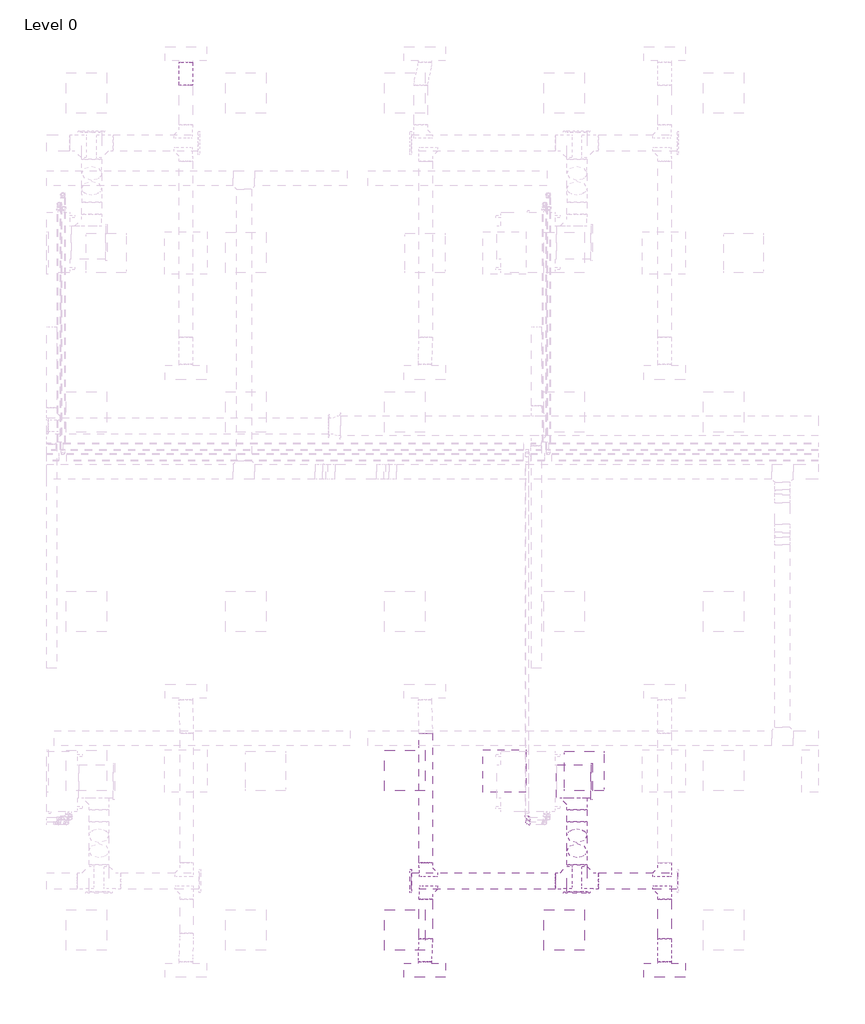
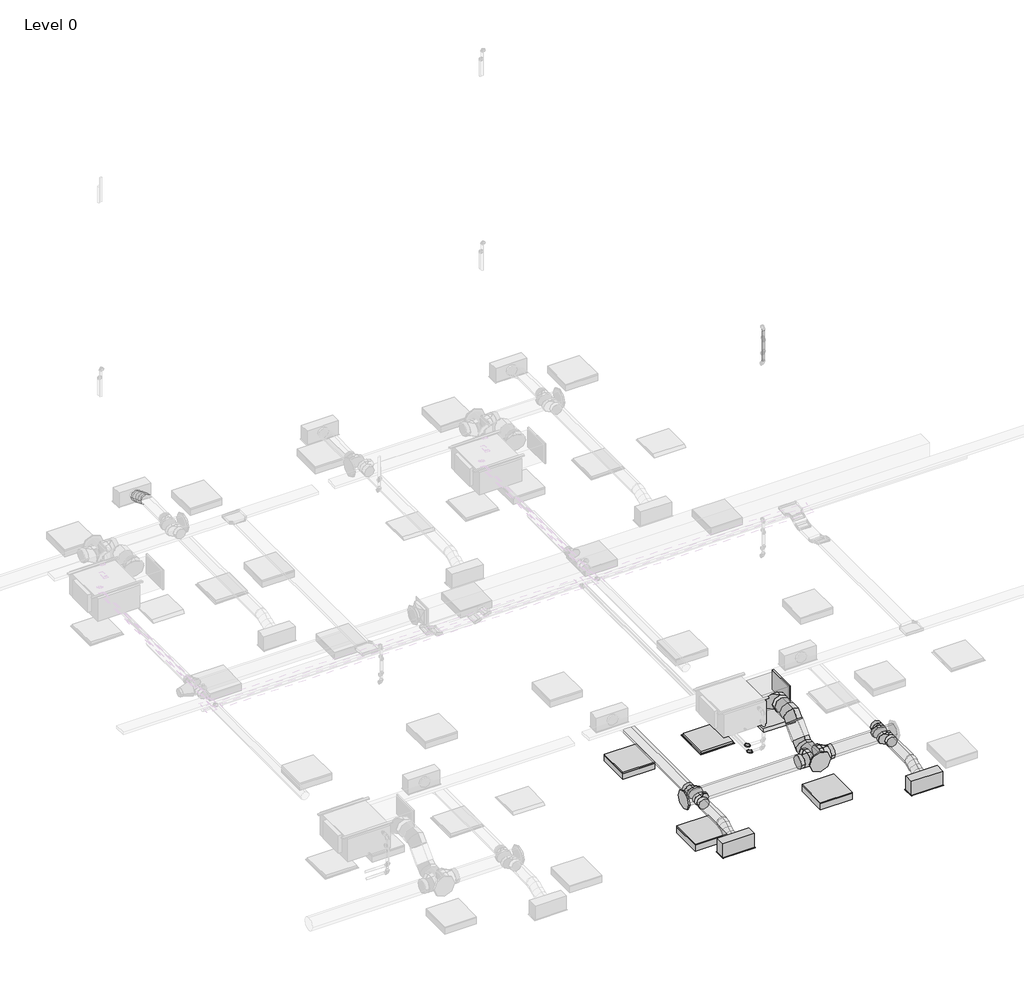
# One storey, part 8 of 34: 12 duct fittings, 12 duct segments, 4 light fixtures, 3 air terminals, 2 pipe fittings, 1 pipe segment.
"""IFC4 building model written with IfcOpenShell, lengths in millimetres."""

from ifc_helpers import new_model, si_unit, point, frame, frame_2d, origin, place, context, project, spatial, polyline, circle_curve, ellipse_curve, trimmed, segment, composite_curve, outline, extrude, transform, mapped, element, save
from ifc_brep_helpers import plane_surface, cylinder_surface, advanced_brep
from components import return_grille_rectangular_hosted_standard_7b12617c, supply_diffuser_with_plenum_linear_slot_hosted_2b730595, dw144_rectangular_blank_end_standard_8fde7d16, dw144_round_blank_end_standard_f82b0856, dw144_round_blank_end_standard_9aa061e7, dw144_round_segmented_bend_slip_joint_standard_8b80c5ae, dw144_round_shoe_branch_slip_joint1_standard_2_15a2edd8, dw144_round_shoe_branch_slip_joint1_standard_2_559552f4, dw144_round_shoe_branch_slip_joint1_standard_2_7ba9e4ed, dw144_round_shoe_branch_slip_joint1_standard_2_67b64720, light_fixture_b730b5ca, troffer_light_2x2_parabolic_2_x2_2_lamp_120v_6a063ff3, elbow_threaded_gmi_standard_b4aa7741

model = new_model("IFC4")

# Units and contexts
model_context = context("Model", 3, world=origin())
ifc_project = project(units=[si_unit("LENGTHUNIT", "METRE", prefix="MILLI")], contexts=[model_context])

# Site, building, storey
site = spatial("IfcSite", under=ifc_project)
building = spatial("IfcBuilding", under=site)
storey = spatial("IfcBuildingStorey", under=building, Name="Level 0", Elevation=0.0)

# Air terminals
placement = place(None, origin())
return_grille_rectangular_hosted_standard_shape = return_grille_rectangular_hosted_standard_7b12617c(model_context)
element("IfcAirTerminal", 1, ObjectType="Return Grille - Rectangular - Hosted : Standard", at=placement, inside=storey, context=model_context, shape_type="MappedRepresentation", body=[
    mapped(return_grille_rectangular_hosted_standard_shape, transform((17562.2000027, 3963.2000004, 2800.0), x_axis=(1.0, 0.0, 0.0), y_axis=(0.0, -1.0, 0.0), z_axis=(0.0, 0.0, -1.0))),
])
supply_diffuser_with_plenum_linear_slot_hosted_shape = supply_diffuser_with_plenum_linear_slot_hosted_2b730595(model_context)
element("IfcAirTerminal", 2, ObjectType="Supply Diffuser with Plenum - Linear Slot - Hosted : 24\" x 8\"-200 In Inlet  4-Slot", at=placement, inside=storey, context=model_context, shape_type="MappedRepresentation", body=[
    mapped(supply_diffuser_with_plenum_linear_slot_hosted_shape, transform((16362.2000027, 963.2000004, 2800.0), x_axis=(1.0, 0.0, 0.0), y_axis=(0.0, -1.0, 0.0), z_axis=(0.0, 0.0, -1.0))),
])
element("IfcAirTerminal", 3, ObjectType="Supply Diffuser with Plenum - Linear Slot - Hosted : 24\" x 8\"-200 In Inlet  4-Slot", at=placement, inside=storey, context=model_context, shape_type="MappedRepresentation", body=[
    mapped(supply_diffuser_with_plenum_linear_slot_hosted_shape, transform((19973.9000022, 963.2000004, 2800.0), x_axis=(1.0, 0.0, 0.0), y_axis=(0.0, -1.0, 0.0), z_axis=(0.0, 0.0, -1.0))),
])

# Duct fittings
dw144_rectangular_blank_end_standard_shape = dw144_rectangular_blank_end_standard_8fde7d16(model_context)
element("IfcDuctFitting", 4, ObjectType="DW144 Rectangular Blank End : Standard", at=placement, inside=storey, context=model_context, shape_type="MappedRepresentation", body=[
    mapped(dw144_rectangular_blank_end_standard_shape, transform((18866.2561025, 3806.0000004, 3476.3911538), x_axis=(1.0, 0.0, 0.0), y_axis=(0.0, 1.0, 0.0), z_axis=(0.0, 0.0, 1.0))),
])
dw144_round_blank_end_standard_shape = dw144_round_blank_end_standard_f82b0856(model_context)
element("IfcDuctFitting", 5, ObjectType="DW144 Round Blank End : Standard", at=placement, inside=storey, context=model_context, shape_type="MappedRepresentation", body=[
    mapped(dw144_round_blank_end_standard_shape, transform((18651.4561025, 2142.9916128, 3072.2088531), x_axis=(0.0, -1.0, 0.0), y_axis=(1.0, 0.0, 0.0), z_axis=(0.0, 0.0, 1.0))),
])
dw144_round_blank_end_standard_2_shape = dw144_round_blank_end_standard_9aa061e7(model_context)
element("IfcDuctFitting", 6, ObjectType="DW144 Round Blank End : Standard", at=placement, inside=storey, context=model_context, shape_type="MappedRepresentation", body=[
    mapped(dw144_round_blank_end_standard_2_shape, transform((16161.4561025, 2306.5018192, 3072.2088531), x_axis=(-1.0, 0.0, 0.0), y_axis=(0.0, -1.0, 0.0), z_axis=(0.0, 0.0, 1.0))),
])
dw144_round_segmented_bend_slip_joint_standard_shape = dw144_round_segmented_bend_slip_joint_standard_8b80c5ae(model_context)
element("IfcDuctFitting", 7, ObjectType="DW144 Round Segmented Bend - Slip Joint : Standard", at=placement, inside=storey, context=model_context, shape_type="MappedRepresentation", body=[
    mapped(dw144_round_segmented_bend_slip_joint_standard_shape, transform((18651.4561025, 2678.6338536, 3072.2088531), x_axis=(0.0, -0.7071067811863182, -0.7071067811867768), y_axis=(0.0, 0.7071067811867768, -0.7071067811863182), z_axis=(1.0, 0.0, 0.0))),
])
element("IfcDuctFitting", 8, ObjectType="DW144 Round Segmented Bend - Slip Joint : Standard", at=placement, inside=storey, context=model_context, shape_type="MappedRepresentation", body=[
    mapped(dw144_round_segmented_bend_slip_joint_standard_shape, transform((18651.4561025, 3076.0000004, 3469.575), x_axis=(0.0, -1.0, 0.0), y_axis=(0.0, 0.0, 1.0), z_axis=(-1.0, 0.0, 0.0))),
])
dw144_round_shoe_branch_slip_joint1_standard_2_shape = dw144_round_shoe_branch_slip_joint1_standard_2_15a2edd8(model_context)
element("IfcDuctFitting", 9, ObjectType="DW144 Round Shoe Branch - Slip Joint1 : Standard 2", at=placement, inside=storey, context=model_context, shape_type="MappedRepresentation", body=[
    mapped(dw144_round_shoe_branch_slip_joint1_standard_2_shape, transform((16373.9000022, 2181.5018192, 3072.2088531), x_axis=(0.0, -1.0, 0.0), y_axis=(-1.0, 0.0, 0.0), z_axis=(0.0, 0.0, -1.0))),
])
element("IfcDuctFitting", 10, ObjectType="DW144 Round Shoe Branch - Slip Joint1 : Standard 2", at=placement, inside=storey, context=model_context, shape_type="MappedRepresentation", body=[
    mapped(dw144_round_shoe_branch_slip_joint1_standard_2_shape, transform((16373.9000022, 2431.5018192, 3072.2088531), x_axis=(0.0, 1.0, 0.0), y_axis=(-1.0, 0.0, 0.0), z_axis=(0.0, 0.0, 1.0))),
])
dw144_round_shoe_branch_slip_joint1_standard_2_2_shape = dw144_round_shoe_branch_slip_joint1_standard_2_559552f4(model_context)
element("IfcDuctFitting", 11, ObjectType="DW144 Round Shoe Branch - Slip Joint1 : Standard 2", at=placement, inside=storey, context=model_context, shape_type="MappedRepresentation", body=[
    mapped(dw144_round_shoe_branch_slip_joint1_standard_2_2_shape, transform((19973.9000022, 2181.5018192, 3072.2088531), x_axis=(0.0, -1.0, 0.0), y_axis=(-1.0, 0.0, 0.0), z_axis=(0.0, 0.0, -1.0))),
])
element("IfcDuctFitting", 12, ObjectType="DW144 Round Shoe Branch - Slip Joint1 : Standard 2", at=placement, inside=storey, context=model_context, shape_type="MappedRepresentation", body=[
    mapped(dw144_round_shoe_branch_slip_joint1_standard_2_2_shape, transform((19973.9000022, 2431.5018192, 3072.2088531), x_axis=(0.0, 1.0, 0.0), y_axis=(-1.0, 0.0, 0.0), z_axis=(0.0, 0.0, 1.0))),
])
dw144_round_shoe_branch_slip_joint1_standard_2_3_shape = dw144_round_shoe_branch_slip_joint1_standard_2_7ba9e4ed(model_context)
element("IfcDuctFitting", 13, ObjectType="DW144 Round Shoe Branch - Slip Joint1 : Standard 2", at=placement, inside=storey, context=model_context, shape_type="MappedRepresentation", body=[
    mapped(dw144_round_shoe_branch_slip_joint1_standard_2_3_shape, transform((18651.4561025, 3556.0000004, 3469.575), x_axis=(0.0, -1.0, 0.0), y_axis=(-1.0, 0.0, 0.0), z_axis=(0.0, 0.0, -1.0))),
])
dw144_round_shoe_branch_slip_joint1_standard_2_4_shape = dw144_round_shoe_branch_slip_joint1_standard_2_67b64720(model_context)
element("IfcDuctFitting", 14, ObjectType="DW144 Round Shoe Branch - Slip Joint1 : Standard 2", at=placement, inside=storey, context=model_context, shape_type="MappedRepresentation", body=[
    mapped(dw144_round_shoe_branch_slip_joint1_standard_2_4_shape, transform((18801.4561025, 2306.5018192, 3072.2088531), x_axis=(1.0, 0.0, 0.0), y_axis=(0.0, -1.0, 0.0), z_axis=(0.0, 0.0, -1.0))),
])
element("IfcDuctFitting", 15, ObjectType="DW144 Round Shoe Branch - Slip Joint1 : Standard 2", at=placement, inside=storey, context=model_context, shape_type="MappedRepresentation", body=[
    mapped(dw144_round_shoe_branch_slip_joint1_standard_2_4_shape, transform((18501.4561025, 2306.5018192, 3072.2088531), x_axis=(-1.0, 0.0, 0.0), y_axis=(0.0, -1.0, 0.0), z_axis=(0.0, 0.0, 1.0))),
])

# Duct segments
element("IfcDuctSegment", 16, ObjectType="DW144 Flanged Med Radius Bend / Shoe Branch", at=placement, inside=storey, context=model_context, shape_type="SweptSolid", body=[
    extrude(outline(polyline([(18346.6561025, 3556.0000004), (18346.6561025, 4056.0000004), (18866.2561025, 4056.0000004), (18866.2561025, 3556.0000004), (18346.6561025, 3556.0000004)])), frame((0.0, 0.0, 3301.3911538), z_axis=(0.0, 0.0, 1.0), x_axis=(1.0, 0.0, 0.0)), (0.0, 0.0, 1.0), 350.0),
])
element("IfcDuctSegment", 17, ObjectType="DW144 Segmented Bend / Shoe Branch", at=placement, inside=storey, context=model_context, shape_type="SweptSolid", body=[
    extrude(outline(composite_curve([segment(trimmed(circle_curve(frame_2d((3469.575, 18651.4561025)), 150.0), [point((3469.575, 18501.4561025))], [point((3319.575, 18651.4561025))], False, "CARTESIAN"), True, "CONTINUOUS"), segment(trimmed(circle_curve(frame_2d((3469.575, 18651.4561025)), 150.0), [point((3319.575, 18651.4561025))], [point((3469.575, 18801.4561025))], False, "CARTESIAN"), True, "CONTINUOUS"), segment(trimmed(circle_curve(frame_2d((3469.575, 18651.4561025)), 150.0), [point((3469.575, 18801.4561025))], [point((3619.575, 18651.4561025))], False, "CARTESIAN"), True, "CONTINUOUS"), segment(trimmed(circle_curve(frame_2d((3469.575, 18651.4561025)), 150.0), [point((3619.575, 18651.4561025))], [point((3469.575, 18501.4561025))], False, "CARTESIAN"), True, "CONTINUOUS")], self_intersect=False)), frame((0.0, 3200.2640691, 0.0), z_axis=(0.0, 1.0, 0.0), x_axis=(0.0, 0.0, 1.0)), (0.0, 0.0, 1.0), 180.7359313),
])
element("IfcDuctSegment", 18, ObjectType="DW144 Segmented Bend / Shoe Branch", at=placement, inside=storey, context=model_context, shape_type="SweptSolid", body=[
    extrude(outline(composite_curve([segment(trimmed(circle_curve(frame_2d((3072.2088531, 18651.4561025)), 150.0), [point((3072.2088531, 18501.4561025))], [point((2922.2088531, 18651.4561025))], False, "CARTESIAN"), True, "CONTINUOUS"), segment(trimmed(circle_curve(frame_2d((3072.2088531, 18651.4561025)), 150.0), [point((2922.2088531, 18651.4561025))], [point((3072.2088531, 18801.4561025))], False, "CARTESIAN"), True, "CONTINUOUS"), segment(trimmed(circle_curve(frame_2d((3072.2088531, 18651.4561025)), 150.0), [point((3072.2088531, 18801.4561025))], [point((3222.2088531, 18651.4561025))], False, "CARTESIAN"), True, "CONTINUOUS"), segment(trimmed(circle_curve(frame_2d((3072.2088531, 18651.4561025)), 150.0), [point((3222.2088531, 18651.4561025))], [point((3072.2088531, 18501.4561025))], False, "CARTESIAN"), True, "CONTINUOUS")], self_intersect=False)), frame((0.0, 2142.9916128, 0.0), z_axis=(0.0, 1.0, 0.0), x_axis=(0.0, 0.0, 1.0)), (0.0, 0.0, 1.0), 411.3781721),
])
element("IfcDuctSegment", 19, ObjectType="DW144 Segmented Bend / Shoe Branch", at=placement, inside=storey, context=model_context, shape_type="SweptSolid", body=[
    extrude(outline(composite_curve([segment(trimmed(circle_curve(frame_2d((0.0, -150.0)), 150.0), [point((-150.0, -150.0))], [point((0.0, 0.0))], False, "CARTESIAN"), True, "CONTINUOUS"), segment(trimmed(circle_curve(frame_2d((0.0, -150.0)), 150.0), [point((0.0, 0.0))], [point((150.0, -150.0))], False, "CARTESIAN"), True, "CONTINUOUS"), segment(trimmed(circle_curve(frame_2d((0.0, -150.0)), 150.0), [point((150.0, -150.0))], [point((0.0, -300.0))], False, "CARTESIAN"), True, "CONTINUOUS"), segment(trimmed(circle_curve(frame_2d((0.0, -150.0)), 150.0), [point((0.0, -300.0))], [point((-150.0, -150.0))], False, "CARTESIAN"), True, "CONTINUOUS")], self_intersect=False)), frame((18651.4561025, 2872.5678364, 3054.0108016), z_axis=(0.0, 0.7071067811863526, 0.7071067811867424), x_axis=(1.0, 0.0, 0.0)), (0.0, 0.0, 1.0), 313.4324567),
])
element("IfcDuctSegment", 20, ObjectType="DW144 Segmented Bend / Shoe Branch", at=placement, inside=storey, context=model_context, shape_type="SweptSolid", body=[
    extrude(outline(composite_curve([segment(trimmed(circle_curve(frame_2d((2306.5018192, 3072.2088531)), 125.0), [point((2181.5018192, 3072.2088531))], [point((2306.5018192, 3197.2088531))], False, "CARTESIAN"), True, "CONTINUOUS"), segment(trimmed(circle_curve(frame_2d((2306.5018192, 3072.2088531)), 125.0), [point((2306.5018192, 3197.2088531))], [point((2431.5018192, 3072.2088531))], False, "CARTESIAN"), True, "CONTINUOUS"), segment(trimmed(circle_curve(frame_2d((2306.5018192, 3072.2088531)), 125.0), [point((2431.5018192, 3072.2088531))], [point((2306.5018192, 2947.2088531))], False, "CARTESIAN"), True, "CONTINUOUS"), segment(trimmed(circle_curve(frame_2d((2306.5018192, 3072.2088531)), 125.0), [point((2306.5018192, 2947.2088531))], [point((2181.5018192, 3072.2088531))], False, "CARTESIAN"), True, "CONTINUOUS")], self_intersect=False)), frame((18976.4561025, 0.0, 0.0), z_axis=(1.0, 0.0, 0.0), x_axis=(0.0, 1.0, 0.0)), (0.0, 0.0, 1.0), 1185.0),
])
element("IfcDuctSegment", 21, ObjectType="DW144 Segmented Bend / Shoe Branch", at=placement, inside=storey, context=model_context, shape_type="SweptSolid", body=[
    extrude(outline(composite_curve([segment(trimmed(circle_curve(frame_2d((2306.5018192, 3072.2088531)), 125.0), [point((2431.5018192, 3072.2088531))], [point((2306.5018192, 2947.2088531))], False, "CARTESIAN"), True, "CONTINUOUS"), segment(trimmed(circle_curve(frame_2d((2306.5018192, 3072.2088531)), 125.0), [point((2306.5018192, 2947.2088531))], [point((2181.5018192, 3072.2088531))], False, "CARTESIAN"), True, "CONTINUOUS"), segment(trimmed(circle_curve(frame_2d((2306.5018192, 3072.2088531)), 125.0), [point((2181.5018192, 3072.2088531))], [point((2306.5018192, 3197.2088531))], False, "CARTESIAN"), True, "CONTINUOUS"), segment(trimmed(circle_curve(frame_2d((2306.5018192, 3072.2088531)), 125.0), [point((2306.5018192, 3197.2088531))], [point((2431.5018192, 3072.2088531))], False, "CARTESIAN"), True, "CONTINUOUS")], self_intersect=False)), frame((16161.4561025, 0.0, 0.0), z_axis=(1.0, 0.0, 0.0), x_axis=(0.0, 1.0, 0.0)), (0.0, 0.0, 1.0), 2165.0),
])
element("IfcDuctSegment", 22, ObjectType="DW144 Segmented Bend / Shoe Branch", at=placement, inside=storey, context=model_context, shape_type="SweptSolid", body=[
    extrude(outline(composite_curve([segment(trimmed(circle_curve(frame_2d((3072.2088531, 19973.9000022)), 100.0), [point((3072.2088531, 19873.9000022))], [point((2972.2088531, 19973.9000022))], False, "CARTESIAN"), True, "CONTINUOUS"), segment(trimmed(circle_curve(frame_2d((3072.2088531, 19973.9000022)), 100.0), [point((2972.2088531, 19973.9000022))], [point((3072.2088531, 20073.9000022))], False, "CARTESIAN"), True, "CONTINUOUS"), segment(trimmed(circle_curve(frame_2d((3072.2088531, 19973.9000022)), 100.0), [point((3072.2088531, 20073.9000022))], [point((3172.2088531, 19973.9000022))], False, "CARTESIAN"), True, "CONTINUOUS"), segment(trimmed(circle_curve(frame_2d((3072.2088531, 19973.9000022)), 100.0), [point((3172.2088531, 19973.9000022))], [point((3072.2088531, 19873.9000022))], False, "CARTESIAN"), True, "CONTINUOUS")], self_intersect=False)), frame((0.0, 1441.5018192, 0.0), z_axis=(0.0, 1.0, 0.0), x_axis=(0.0, 0.0, 1.0)), (0.0, 0.0, 1.0), 590.0),
])
element("IfcDuctSegment", 23, ObjectType="DW144 Segmented Bend / Shoe Branch", at=placement, inside=storey, context=model_context, shape_type="SweptSolid", body=[
    extrude(outline(composite_curve([segment(trimmed(circle_curve(frame_2d((3072.2088531, 16373.9000022)), 100.0), [point((3072.2088531, 16473.9000022))], [point((3172.2088531, 16373.9000022))], False, "CARTESIAN"), True, "CONTINUOUS"), segment(trimmed(circle_curve(frame_2d((3072.2088531, 16373.9000022)), 100.0), [point((3172.2088531, 16373.9000022))], [point((3072.2088531, 16273.9000022))], False, "CARTESIAN"), True, "CONTINUOUS"), segment(trimmed(circle_curve(frame_2d((3072.2088531, 16373.9000022)), 100.0), [point((3072.2088531, 16273.9000022))], [point((2972.2088531, 16373.9000022))], False, "CARTESIAN"), True, "CONTINUOUS"), segment(trimmed(circle_curve(frame_2d((3072.2088531, 16373.9000022)), 100.0), [point((2972.2088531, 16373.9000022))], [point((3072.2088531, 16473.9000022))], False, "CARTESIAN"), True, "CONTINUOUS")], self_intersect=False)), frame((0.0, 1441.5018192, 0.0), z_axis=(0.0, 1.0, 0.0), x_axis=(0.0, 0.0, 1.0)), (0.0, 0.0, 1.0), 590.0),
])
element("IfcDuctSegment", 24, ObjectType="DW144 Segmented Bend / Shoe Branch", at=placement, inside=storey, context=model_context, shape_type="SweptSolid", body=[
    extrude(outline(composite_curve([segment(trimmed(circle_curve(frame_2d((3072.2088531, 16373.9000022)), 100.0), [point((3072.2088531, 16473.9000022))], [point((3172.2088531, 16373.9000022))], False, "CARTESIAN"), True, "CONTINUOUS"), segment(trimmed(circle_curve(frame_2d((3072.2088531, 16373.9000022)), 100.0), [point((3172.2088531, 16373.9000022))], [point((3072.2088531, 16273.9000022))], False, "CARTESIAN"), True, "CONTINUOUS"), segment(trimmed(circle_curve(frame_2d((3072.2088531, 16373.9000022)), 100.0), [point((3072.2088531, 16273.9000022))], [point((2972.2088531, 16373.9000022))], False, "CARTESIAN"), True, "CONTINUOUS"), segment(trimmed(circle_curve(frame_2d((3072.2088531, 16373.9000022)), 100.0), [point((2972.2088531, 16373.9000022))], [point((3072.2088531, 16473.9000022))], False, "CARTESIAN"), True, "CONTINUOUS")], self_intersect=False)), frame((0.0, 2581.5018192, 0.0), z_axis=(0.0, 1.0, 0.0), x_axis=(0.0, 0.0, 1.0)), (0.0, 0.0, 1.0), 1950.0),
])
element("IfcDuctSegment", 25, ObjectType="Flex - Round", at=placement, inside=storey, context=model_context, shape_type="AdvancedBrep", body=[
    advanced_brep(
    [(12662.2000027, 14284.8981817, 3072.2088531), (12762.2000027, 14284.8981817, 2972.2088531), (12862.2000027, 14284.8981817, 3072.2088531), (12762.2000027, 14284.8981817, 3172.2088531), (12662.2000027, 14305.016086, 3072.2088531), (12762.2000027, 14291.9994573, 2972.2088531), (12862.2000027, 14305.016086, 3072.2088531), (12762.2000027, 14318.0327147, 3172.2088531), (12662.2000027, 14636.2000004, 2954.4), (12762.2000027, 14636.2000004, 3054.4), (12862.2000027, 14636.2000004, 2954.4), (12762.2000027, 14636.2000004, 2854.4), (12662.2000027, 14374.5262041, 3053.8012198), (12762.2000027, 14340.1488087, 2959.4579669), (12862.2000027, 14374.5262041, 3053.8012198), (12762.2000027, 14408.9035994, 3148.1444727), (12662.2000027, 14460.549091, 3013.3044266), (12762.2000027, 14417.9560975, 2922.8288116), (12862.2000027, 14460.549091, 3013.3044266), (12762.2000027, 14503.1420846, 3103.7800415), (12662.2000027, 14546.571978, 2972.8076333), (12762.2000027, 14512.1945826, 2878.4643804), (12862.2000027, 14546.571978, 2972.8076333), (12762.2000027, 14580.9493734, 3067.1508862), (12662.2000027, 14616.0820961, 2954.4), (12762.2000027, 14603.0654674, 2854.4), (12862.2000027, 14616.0820961, 2954.4), (12762.2000027, 14629.0987248, 3054.4)],
    [
        (0, 1, circle_curve(frame((12762.2000027, 14284.8981817, 3072.2088531), z_axis=(0.0, -1.0, 0.0), x_axis=(-1.0, 0.0, 0.0)), 100.0)),
        (1, 2, circle_curve(frame((12762.2000027, 14284.8981817, 3072.2088531), z_axis=(0.0, -1.0, 0.0), x_axis=(-1.0, 0.0, 0.0)), 100.0)),
        (2, 3, circle_curve(frame((12762.2000027, 14284.8981817, 3072.2088531), z_axis=(0.0, -1.0, 0.0), x_axis=(-1.0, 0.0, 0.0)), 100.0)),
        (3, 0, circle_curve(frame((12762.2000027, 14284.8981817, 3072.2088531), z_axis=(0.0, -1.0, 0.0), x_axis=(-1.0, 0.0, 0.0)), 100.0)),
        (0, 4),
        (4, 5, ellipse_curve(frame((12762.2000027, 14305.016086, 3072.2088531), z_axis=(0.0, -0.9916345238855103, 0.12907738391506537), x_axis=(0.0, -0.1290773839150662, -0.9916345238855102)), 100.8436048, 100.0)),
        (5, 1),
        (5, 6, ellipse_curve(frame((12762.2000027, 14305.016086, 3072.2088531), z_axis=(0.0, -0.9916345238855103, 0.12907738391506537), x_axis=(0.0, -0.1290773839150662, -0.9916345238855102)), 100.8436048, 100.0)),
        (6, 2),
        (6, 7, ellipse_curve(frame((12762.2000027, 14305.016086, 3072.2088531), z_axis=(0.0, -0.9916345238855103, 0.12907738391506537), x_axis=(0.0, -0.1290773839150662, -0.9916345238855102)), 100.8436048, 100.0)),
        (7, 3),
        (7, 4, ellipse_curve(frame((12762.2000027, 14305.016086, 3072.2088531), z_axis=(0.0, -0.9916345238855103, 0.12907738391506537), x_axis=(0.0, -0.1290773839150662, -0.9916345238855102)), 100.8436048, 100.0)),
        (8, 9, circle_curve(frame((12762.2000027, 14636.2000004, 2954.4), z_axis=(0.0, 1.0, 0.0), x_axis=(-1.0, 0.0, 0.0)), 100.0)),
        (9, 10, circle_curve(frame((12762.2000027, 14636.2000004, 2954.4), z_axis=(0.0, 1.0, 0.0), x_axis=(-1.0, 0.0, 0.0)), 100.0)),
        (10, 11, circle_curve(frame((12762.2000027, 14636.2000004, 2954.4), z_axis=(0.0, 1.0, 0.0), x_axis=(-1.0, 0.0, 0.0)), 100.0)),
        (11, 8, circle_curve(frame((12762.2000027, 14636.2000004, 2954.4), z_axis=(0.0, 1.0, 0.0), x_axis=(-1.0, 0.0, 0.0)), 100.0)),
        (4, 12),
        (12, 13, ellipse_curve(frame((12762.2000027, 14374.5262041, 3053.8012198), z_axis=(0.0, -0.9395668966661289, 0.34236537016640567), x_axis=(0.0, -0.3423653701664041, -0.9395668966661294)), 100.411427, 100.0)),
        (13, 5),
        (13, 14, ellipse_curve(frame((12762.2000027, 14374.5262041, 3053.8012198), z_axis=(0.0, -0.9395668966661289, 0.34236537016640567), x_axis=(0.0, -0.3423653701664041, -0.9395668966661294)), 100.411427, 100.0)),
        (14, 6),
        (14, 15, ellipse_curve(frame((12762.2000027, 14374.5262041, 3053.8012198), z_axis=(0.0, -0.9395668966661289, 0.34236537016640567), x_axis=(0.0, -0.3423653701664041, -0.9395668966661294)), 100.411427, 100.0)),
        (15, 7),
        (15, 12, ellipse_curve(frame((12762.2000027, 14374.5262041, 3053.8012198), z_axis=(0.0, -0.9395668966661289, 0.34236537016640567), x_axis=(0.0, -0.3423653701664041, -0.9395668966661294)), 100.411427, 100.0)),
        (12, 16),
        (16, 17, circle_curve(frame((12762.2000027, 14460.549091, 3013.3044266), z_axis=(0.0, -0.9047561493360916, 0.425929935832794), x_axis=(-1.0, 0.0, 0.0)), 100.0)),
        (17, 13),
        (17, 18, circle_curve(frame((12762.2000027, 14460.549091, 3013.3044266), z_axis=(0.0, -0.9047561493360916, 0.425929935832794), x_axis=(-1.0, 0.0, 0.0)), 100.0)),
        (18, 14),
        (18, 19, circle_curve(frame((12762.2000027, 14460.549091, 3013.3044266), z_axis=(0.0, -0.9047561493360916, 0.425929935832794), x_axis=(-1.0, 0.0, 0.0)), 100.0)),
        (19, 15),
        (19, 16, circle_curve(frame((12762.2000027, 14460.549091, 3013.3044266), z_axis=(0.0, -0.9047561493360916, 0.425929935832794), x_axis=(-1.0, 0.0, 0.0)), 100.0)),
        (16, 20),
        (20, 21, ellipse_curve(frame((12762.2000027, 14546.571978, 2972.8076333), z_axis=(0.0, -0.9395668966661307, 0.34236537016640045), x_axis=(0.0, 0.34236537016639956, 0.9395668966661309)), 100.411427, 100.0)),
        (21, 17),
        (21, 22, ellipse_curve(frame((12762.2000027, 14546.571978, 2972.8076333), z_axis=(0.0, -0.9395668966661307, 0.34236537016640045), x_axis=(0.0, 0.34236537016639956, 0.9395668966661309)), 100.411427, 100.0)),
        (22, 18),
        (22, 23, ellipse_curve(frame((12762.2000027, 14546.571978, 2972.8076333), z_axis=(0.0, -0.9395668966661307, 0.34236537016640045), x_axis=(0.0, 0.34236537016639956, 0.9395668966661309)), 100.411427, 100.0)),
        (23, 19),
        (23, 20, ellipse_curve(frame((12762.2000027, 14546.571978, 2972.8076333), z_axis=(0.0, -0.9395668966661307, 0.34236537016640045), x_axis=(0.0, 0.34236537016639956, 0.9395668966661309)), 100.411427, 100.0)),
        (20, 24),
        (24, 25, ellipse_curve(frame((12762.2000027, 14616.0820961, 2954.4), z_axis=(0.0, -0.9916345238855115, 0.1290773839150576), x_axis=(0.0, 0.1290773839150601, 0.9916345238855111)), 100.8436048, 100.0)),
        (25, 21),
        (25, 26, ellipse_curve(frame((12762.2000027, 14616.0820961, 2954.4), z_axis=(0.0, -0.9916345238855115, 0.1290773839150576), x_axis=(0.0, 0.1290773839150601, 0.9916345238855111)), 100.8436048, 100.0)),
        (26, 22),
        (26, 27, ellipse_curve(frame((12762.2000027, 14616.0820961, 2954.4), z_axis=(0.0, -0.9916345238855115, 0.1290773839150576), x_axis=(0.0, 0.1290773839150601, 0.9916345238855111)), 100.8436048, 100.0)),
        (27, 23),
        (27, 24, ellipse_curve(frame((12762.2000027, 14616.0820961, 2954.4), z_axis=(0.0, -0.9916345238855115, 0.1290773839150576), x_axis=(0.0, 0.1290773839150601, 0.9916345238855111)), 100.8436048, 100.0)),
        (24, 8),
        (11, 25),
        (10, 26),
        (9, 27),
    ],
    [
        plane_surface(frame((12662.2000027, 14284.8981817, 3072.2088531), z_axis=(0.0, -1.0, 0.0), x_axis=(0.0, 0.0, 1.0))),
        cylinder_surface(frame((12762.2000027, 14284.8981817, 3072.2088531), z_axis=(0.0, -1.0, 0.0), x_axis=(-1.0, 0.0, 0.0)), 100.0),
        plane_surface(frame((12662.2000027, 14636.2000004, 2954.4), z_axis=(0.0, 1.0, 0.0), x_axis=(0.0, 0.0, 1.0))),
        cylinder_surface(frame((12762.2000027, 14305.016086, 3072.2088531), z_axis=(0.0, -0.9666780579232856, 0.25599518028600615), x_axis=(-1.0, 0.0, 0.0)), 100.0),
        cylinder_surface(frame((12762.2000027, 14374.5262041, 3053.8012198), z_axis=(0.0, -0.9047561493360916, 0.425929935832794), x_axis=(-1.0, 0.0, 0.0)), 100.0),
        cylinder_surface(frame((12762.2000027, 14460.549091, 3013.3044266), z_axis=(0.0, -0.9047561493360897, 0.4259299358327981), x_axis=(-1.0, 0.0, 0.0)), 100.0),
        cylinder_surface(frame((12762.2000027, 14546.571978, 2972.8076333), z_axis=(0.0, -0.9666780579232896, 0.2559951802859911), x_axis=(-1.0, 0.0, 0.0)), 100.0),
        cylinder_surface(frame((12762.2000027, 14616.0820961, 2954.4), z_axis=(0.0, -1.0, 0.0), x_axis=(-1.0, 0.0, 0.0)), 100.0),
    ],
    [
        (0, [[1, 2, 3, 4]]),
        (1, [[-1, 5, 6, 7]]),
        (1, [[-2, -7, 8, 9]]),
        (1, [[-3, -9, 10, 11]]),
        (1, [[-4, -11, 12, -5]]),
        (2, [[13, 14, 15, 16]]),
        (3, [[-6, 17, 18, 19]]),
        (3, [[-8, -19, 20, 21]]),
        (3, [[-10, -21, 22, 23]]),
        (3, [[-12, -23, 24, -17]]),
        (4, [[-18, 25, 26, 27]]),
        (4, [[-20, -27, 28, 29]]),
        (4, [[-22, -29, 30, 31]]),
        (4, [[-24, -31, 32, -25]]),
        (5, [[-26, 33, 34, 35]]),
        (5, [[-28, -35, 36, 37]]),
        (5, [[-30, -37, 38, 39]]),
        (5, [[-32, -39, 40, -33]]),
        (6, [[-34, 41, 42, 43]]),
        (6, [[-36, -43, 44, 45]]),
        (6, [[-38, -45, 46, 47]]),
        (6, [[-40, -47, 48, -41]]),
        (7, [[-42, 49, -16, 50]]),
        (7, [[-44, -50, -15, 51]]),
        (7, [[-46, -51, -14, 52]]),
        (7, [[-48, -52, -13, -49]]),
    ],
),
])
element("IfcDuctSegment", 26, ObjectType="Flex - Round", at=placement, inside=storey, context=model_context, shape_type="AdvancedBrep", body=[
    advanced_brep(
    [(16473.9000022, 1441.5018192, 3072.2088531), (16373.9000022, 1441.5018192, 2972.2088531), (16273.9000022, 1441.5018192, 3072.2088531), (16373.9000022, 1441.5018192, 3172.2088531), (16473.9000022, 1420.0995917, 3072.2088531), (16373.9000022, 1434.401614, 2972.2088531), (16273.9000022, 1422.6837186, 3072.2088531), (16373.9000022, 1408.3816962, 3172.2088531), (16462.2000027, 1090.2000004, 2954.4), (16362.2000027, 1090.2000004, 3054.4), (16262.2000027, 1090.2000004, 2954.4), (16362.2000027, 1090.2000004, 2854.4), (16472.0161428, 1348.4444846, 3053.2400219), (16372.6330752, 1386.2123534, 2959.4519962), (16272.1276118, 1355.2684822, 3054.3624177), (16371.5106794, 1317.5006134, 3148.1504435), (16467.9561574, 1261.6239384, 3012.3594887), (16368.9949403, 1308.4128474, 2922.8191318), (16268.1438475, 1270.0778812, 3014.2493644), (16367.1050646, 1223.2889723, 3103.7897213), (16463.9723931, 1176.4333374, 2972.2464354), (16364.5893255, 1214.2012062, 2878.4584097), (16264.0838621, 1183.257335, 2973.3688312), (16363.4669297, 1145.4894662, 3067.1568569), (16462.2000027, 1109.0181011, 2954.4), (16362.2000027, 1123.3201234, 2854.4), (16262.2000027, 1111.602228, 2954.4), (16362.2000027, 1097.3002057, 3054.4)],
    [
        (0, 1, circle_curve(frame((16373.9000022, 1441.5018192, 3072.2088531), z_axis=(0.0, 1.0, 0.0), x_axis=(1.0, 0.0, 0.0)), 100.0)),
        (1, 2, circle_curve(frame((16373.9000022, 1441.5018192, 3072.2088531), z_axis=(0.0, 1.0, 0.0), x_axis=(1.0, 0.0, 0.0)), 100.0)),
        (2, 3, circle_curve(frame((16373.9000022, 1441.5018192, 3072.2088531), z_axis=(0.0, 1.0, 0.0), x_axis=(1.0, 0.0, 0.0)), 100.0)),
        (3, 0, circle_curve(frame((16373.9000022, 1441.5018192, 3072.2088531), z_axis=(0.0, 1.0, 0.0), x_axis=(1.0, 0.0, 0.0)), 100.0)),
        (0, 4),
        (4, 5, ellipse_curve(frame((16373.9000022, 1421.3916551, 3072.2088531), z_axis=(0.01281160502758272, 0.9915616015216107, 0.12900175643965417), x_axis=(-0.09799329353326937, 0.1296363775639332, -0.9867075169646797)), 100.8510211, 100.0)),
        (5, 1),
        (5, 6, ellipse_curve(frame((16373.9000022, 1421.3916551, 3072.2088531), z_axis=(0.01281160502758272, 0.9915616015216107, 0.12900175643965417), x_axis=(-0.09799329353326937, 0.1296363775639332, -0.9867075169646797)), 100.8510211, 100.0)),
        (6, 2),
        (6, 7, ellipse_curve(frame((16373.9000022, 1421.3916551, 3072.2088531), z_axis=(0.01281160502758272, 0.9915616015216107, 0.12900175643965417), x_axis=(-0.09799329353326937, 0.1296363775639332, -0.9867075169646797)), 100.8510211, 100.0)),
        (7, 3),
        (7, 4, ellipse_curve(frame((16373.9000022, 1421.3916551, 3072.2088531), z_axis=(0.01281160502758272, 0.9915616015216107, 0.12900175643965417), x_axis=(-0.09799329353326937, 0.1296363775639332, -0.9867075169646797)), 100.8510211, 100.0)),
        (8, 9, circle_curve(frame((16362.2000027, 1090.2000004, 2954.4), z_axis=(0.0, -1.0, 0.0), x_axis=(1.0, 0.0, 0.0)), 100.0)),
        (9, 10, circle_curve(frame((16362.2000027, 1090.2000004, 2954.4), z_axis=(0.0, -1.0, 0.0), x_axis=(1.0, 0.0, 0.0)), 100.0)),
        (10, 11, circle_curve(frame((16362.2000027, 1090.2000004, 2954.4), z_axis=(0.0, -1.0, 0.0), x_axis=(1.0, 0.0, 0.0)), 100.0)),
        (11, 8, circle_curve(frame((16362.2000027, 1090.2000004, 2954.4), z_axis=(0.0, -1.0, 0.0), x_axis=(1.0, 0.0, 0.0)), 100.0)),
        (4, 12),
        (12, 13, ellipse_curve(frame((16372.0718773, 1351.8564834, 3053.8012198), z_axis=(0.03397887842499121, 0.939035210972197, 0.34213784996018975), x_axis=(-0.09280225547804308, 0.3438209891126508, -0.9344382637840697)), 100.4152859, 100.0)),
        (13, 5),
        (13, 14, ellipse_curve(frame((16372.0718773, 1351.8564834, 3053.8012198), z_axis=(0.03397887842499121, 0.939035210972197, 0.34213784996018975), x_axis=(-0.09280225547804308, 0.3438209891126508, -0.9344382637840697)), 100.4152859, 100.0)),
        (14, 6),
        (14, 15, ellipse_curve(frame((16372.0718773, 1351.8564834, 3053.8012198), z_axis=(0.03397887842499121, 0.939035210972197, 0.34213784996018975), x_axis=(-0.09280225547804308, 0.3438209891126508, -0.9344382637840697)), 100.4152859, 100.0)),
        (15, 7),
        (15, 12, ellipse_curve(frame((16372.0718773, 1351.8564834, 3053.8012198), z_axis=(0.03397887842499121, 0.939035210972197, 0.34213784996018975), x_axis=(-0.09280225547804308, 0.3438209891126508, -0.9344382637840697)), 100.4152859, 100.0)),
        (12, 16),
        (16, 17, circle_curve(frame((16368.0500024, 1265.8509098, 3013.3044266), z_axis=(0.04226971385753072, 0.9039144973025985, 0.4256193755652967), x_axis=(0.9990615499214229, -0.042269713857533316, -0.00944937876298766)), 100.0)),
        (17, 13),
        (17, 18, circle_curve(frame((16368.0500024, 1265.8509098, 3013.3044266), z_axis=(0.04226971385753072, 0.9039144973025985, 0.4256193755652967), x_axis=(0.9990615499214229, -0.042269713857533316, -0.00944937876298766)), 100.0)),
        (18, 14),
        (18, 19, circle_curve(frame((16368.0500024, 1265.8509098, 3013.3044266), z_axis=(0.04226971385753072, 0.9039144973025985, 0.4256193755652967), x_axis=(0.9990615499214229, -0.042269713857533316, -0.00944937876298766)), 100.0)),
        (19, 15),
        (19, 16, circle_curve(frame((16368.0500024, 1265.8509098, 3013.3044266), z_axis=(0.04226971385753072, 0.9039144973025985, 0.4256193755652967), x_axis=(0.9990615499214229, -0.042269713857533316, -0.00944937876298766)), 100.0)),
        (16, 20),
        (20, 21, ellipse_curve(frame((16364.0281276, 1179.8453362, 2972.8076333), z_axis=(0.033978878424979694, 0.9390352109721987, 0.3421378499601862), x_axis=(0.09280225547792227, -0.34382098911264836, 0.9344382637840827)), 100.4152859, 100.0)),
        (21, 17),
        (21, 22, ellipse_curve(frame((16364.0281276, 1179.8453362, 2972.8076333), z_axis=(0.033978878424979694, 0.9390352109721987, 0.3421378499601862), x_axis=(0.09280225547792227, -0.34382098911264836, 0.9344382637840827)), 100.4152859, 100.0)),
        (22, 18),
        (22, 23, ellipse_curve(frame((16364.0281276, 1179.8453362, 2972.8076333), z_axis=(0.033978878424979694, 0.9390352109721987, 0.3421378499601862), x_axis=(0.09280225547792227, -0.34382098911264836, 0.9344382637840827)), 100.4152859, 100.0)),
        (23, 19),
        (23, 20, ellipse_curve(frame((16364.0281276, 1179.8453362, 2972.8076333), z_axis=(0.033978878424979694, 0.9390352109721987, 0.3421378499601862), x_axis=(0.09280225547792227, -0.34382098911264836, 0.9344382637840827)), 100.4152859, 100.0)),
        (20, 24),
        (24, 25, ellipse_curve(frame((16362.2000027, 1110.3101645, 2954.4), z_axis=(0.012811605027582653, 0.9915616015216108, 0.12900175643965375), x_axis=(0.09799329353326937, -0.12963637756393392, 0.9867075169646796)), 100.8510211, 100.0)),
        (25, 21),
        (25, 26, ellipse_curve(frame((16362.2000027, 1110.3101645, 2954.4), z_axis=(0.012811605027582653, 0.9915616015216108, 0.12900175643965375), x_axis=(0.09799329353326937, -0.12963637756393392, 0.9867075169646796)), 100.8510211, 100.0)),
        (26, 22),
        (26, 27, ellipse_curve(frame((16362.2000027, 1110.3101645, 2954.4), z_axis=(0.012811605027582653, 0.9915616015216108, 0.12900175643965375), x_axis=(0.09799329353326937, -0.12963637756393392, 0.9867075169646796)), 100.8510211, 100.0)),
        (27, 23),
        (27, 24, ellipse_curve(frame((16362.2000027, 1110.3101645, 2954.4), z_axis=(0.012811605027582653, 0.9915616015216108, 0.12900175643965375), x_axis=(0.09799329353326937, -0.12963637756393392, 0.9867075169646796)), 100.8510211, 100.0)),
        (24, 8),
        (11, 25),
        (10, 26),
        (9, 27),
    ],
    [
        plane_surface(frame((16273.9000022, 1441.5018192, 3072.2088531), z_axis=(0.0, 1.0, 0.0), x_axis=(0.0, 0.0, -1.0))),
        cylinder_surface(frame((16373.9000022, 1441.5018192, 3072.2088531), z_axis=(0.0, 1.0, 0.0), x_axis=(1.0, 0.0, 0.0)), 100.0),
        plane_surface(frame((16262.2000027, 1090.2000004, 2954.4), z_axis=(0.0, -1.0, 0.0), x_axis=(0.0, 0.0, -1.0))),
        cylinder_surface(frame((16373.9000022, 1421.3916551, 3072.2088531), z_axis=(0.02540699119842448, 0.9663888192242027, 0.25582637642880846), x_axis=(0.9996717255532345, -0.02540699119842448, -0.003305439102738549)), 100.0),
        cylinder_surface(frame((16372.0718773, 1351.8564834, 3053.8012198), z_axis=(0.04226971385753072, 0.9039144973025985, 0.4256193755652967), x_axis=(0.9990615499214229, -0.042269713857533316, -0.00944937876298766)), 100.0),
        cylinder_surface(frame((16368.0500024, 1265.8509098, 3013.3044266), z_axis=(0.04226971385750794, 0.9039144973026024, 0.425619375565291), x_axis=(0.9990615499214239, -0.042269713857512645, -0.009449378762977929)), 100.0),
        cylinder_surface(frame((16364.0281276, 1179.8453362, 2972.8076333), z_axis=(0.025406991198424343, 0.966388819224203, 0.25582637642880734), x_axis=(0.9996717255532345, -0.02540699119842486, -0.0033054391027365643)), 100.0),
        cylinder_surface(frame((16362.2000027, 1110.3101645, 2954.4), z_axis=(0.0, 1.0, 0.0), x_axis=(1.0, 0.0, 0.0)), 100.0),
    ],
    [
        (0, [[1, 2, 3, 4]]),
        (1, [[-1, 5, 6, 7]]),
        (1, [[-2, -7, 8, 9]]),
        (1, [[-3, -9, 10, 11]]),
        (1, [[-4, -11, 12, -5]]),
        (2, [[13, 14, 15, 16]]),
        (3, [[-6, 17, 18, 19]]),
        (3, [[-8, -19, 20, 21]]),
        (3, [[-10, -21, 22, 23]]),
        (3, [[-12, -23, 24, -17]]),
        (4, [[-18, 25, 26, 27]]),
        (4, [[-20, -27, 28, 29]]),
        (4, [[-22, -29, 30, 31]]),
        (4, [[-24, -31, 32, -25]]),
        (5, [[-26, 33, 34, 35]]),
        (5, [[-28, -35, 36, 37]]),
        (5, [[-30, -37, 38, 39]]),
        (5, [[-32, -39, 40, -33]]),
        (6, [[-34, 41, 42, 43]]),
        (6, [[-36, -43, 44, 45]]),
        (6, [[-38, -45, 46, 47]]),
        (6, [[-40, -47, 48, -41]]),
        (7, [[-42, 49, -16, 50]]),
        (7, [[-44, -50, -15, 51]]),
        (7, [[-46, -51, -14, 52]]),
        (7, [[-48, -52, -13, -49]]),
    ],
),
])
element("IfcDuctSegment", 27, ObjectType="Flex - Round", at=placement, inside=storey, context=model_context, shape_type="AdvancedBrep", body=[
    advanced_brep(
    [(20073.9000022, 1441.5018192, 3072.2088531), (19973.9000022, 1441.5018192, 2972.2088531), (19873.9000022, 1441.5018192, 3072.2088531), (19973.9000022, 1441.5018192, 3172.2088531), (20073.9000022, 1421.3839149, 3072.2088531), (19973.9000022, 1434.4005436, 2972.2088531), (19873.9000022, 1421.3839149, 3072.2088531), (19973.9000022, 1408.3672862, 3172.2088531), (20073.9000022, 1090.2000004, 2954.4), (19973.9000022, 1090.2000004, 3054.4), (19873.9000022, 1090.2000004, 2954.4), (19973.9000022, 1090.2000004, 2854.4), (20073.9000022, 1351.8737968, 3053.8012198), (19973.9000022, 1386.2511922, 2959.4579669), (19873.9000022, 1351.8737968, 3053.8012198), (19973.9000022, 1317.4964014, 3148.1444727), (20073.9000022, 1265.8509098, 3013.3044266), (19973.9000022, 1308.4439034, 2922.8288116), (19873.9000022, 1265.8509098, 3013.3044266), (19973.9000022, 1223.2579162, 3103.7800415), (20073.9000022, 1179.8280228, 2972.8076333), (19973.9000022, 1214.2054182, 2878.4643804), (19873.9000022, 1179.8280228, 2972.8076333), (19973.9000022, 1145.4506275, 3067.1508862), (20073.9000022, 1110.3179048, 2954.4), (19973.9000022, 1123.3345334, 2854.4), (19873.9000022, 1110.3179048, 2954.4), (19973.9000022, 1097.3012761, 3054.4)],
    [
        (0, 1, circle_curve(frame((19973.9000022, 1441.5018192, 3072.2088531), z_axis=(0.0, 1.0, 0.0), x_axis=(1.0, 0.0, 0.0)), 100.0)),
        (1, 2, circle_curve(frame((19973.9000022, 1441.5018192, 3072.2088531), z_axis=(0.0, 1.0, 0.0), x_axis=(1.0, 0.0, 0.0)), 100.0)),
        (2, 3, circle_curve(frame((19973.9000022, 1441.5018192, 3072.2088531), z_axis=(0.0, 1.0, 0.0), x_axis=(1.0, 0.0, 0.0)), 100.0)),
        (3, 0, circle_curve(frame((19973.9000022, 1441.5018192, 3072.2088531), z_axis=(0.0, 1.0, 0.0), x_axis=(1.0, 0.0, 0.0)), 100.0)),
        (0, 4),
        (4, 5, ellipse_curve(frame((19973.9000022, 1421.3839149, 3072.2088531), z_axis=(0.0, 0.9916345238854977, 0.12907738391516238), x_axis=(0.0, 0.12907738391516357, -0.9916345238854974)), 100.8436048, 100.0)),
        (5, 1),
        (5, 6, ellipse_curve(frame((19973.9000022, 1421.3839149, 3072.2088531), z_axis=(0.0, 0.9916345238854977, 0.12907738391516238), x_axis=(0.0, 0.12907738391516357, -0.9916345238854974)), 100.8436048, 100.0)),
        (6, 2),
        (6, 7, ellipse_curve(frame((19973.9000022, 1421.3839149, 3072.2088531), z_axis=(0.0, 0.9916345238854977, 0.12907738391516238), x_axis=(0.0, 0.12907738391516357, -0.9916345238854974)), 100.8436048, 100.0)),
        (7, 3),
        (7, 4, ellipse_curve(frame((19973.9000022, 1421.3839149, 3072.2088531), z_axis=(0.0, 0.9916345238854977, 0.12907738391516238), x_axis=(0.0, 0.12907738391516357, -0.9916345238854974)), 100.8436048, 100.0)),
        (8, 9, circle_curve(frame((19973.9000022, 1090.2000004, 2954.4), z_axis=(0.0, -1.0, 0.0), x_axis=(1.0, 0.0, 0.0)), 100.0)),
        (9, 10, circle_curve(frame((19973.9000022, 1090.2000004, 2954.4), z_axis=(0.0, -1.0, 0.0), x_axis=(1.0, 0.0, 0.0)), 100.0)),
        (10, 11, circle_curve(frame((19973.9000022, 1090.2000004, 2954.4), z_axis=(0.0, -1.0, 0.0), x_axis=(1.0, 0.0, 0.0)), 100.0)),
        (11, 8, circle_curve(frame((19973.9000022, 1090.2000004, 2954.4), z_axis=(0.0, -1.0, 0.0), x_axis=(1.0, 0.0, 0.0)), 100.0)),
        (4, 12),
        (12, 13, ellipse_curve(frame((19973.9000022, 1351.8737968, 3053.8012198), z_axis=(0.0, 0.9395668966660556, 0.34236537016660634), x_axis=(0.0, 0.34236537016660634, -0.9395668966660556)), 100.411427, 100.0)),
        (13, 5),
        (13, 14, ellipse_curve(frame((19973.9000022, 1351.8737968, 3053.8012198), z_axis=(0.0, 0.9395668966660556, 0.34236537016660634), x_axis=(0.0, 0.34236537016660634, -0.9395668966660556)), 100.411427, 100.0)),
        (14, 6),
        (14, 15, ellipse_curve(frame((19973.9000022, 1351.8737968, 3053.8012198), z_axis=(0.0, 0.9395668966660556, 0.34236537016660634), x_axis=(0.0, 0.34236537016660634, -0.9395668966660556)), 100.411427, 100.0)),
        (15, 7),
        (15, 12, ellipse_curve(frame((19973.9000022, 1351.8737968, 3053.8012198), z_axis=(0.0, 0.9395668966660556, 0.34236537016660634), x_axis=(0.0, 0.34236537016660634, -0.9395668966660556)), 100.411427, 100.0)),
        (12, 16),
        (16, 17, circle_curve(frame((19973.9000022, 1265.8509098, 3013.3044266), z_axis=(0.0, 0.9047561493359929, 0.4259299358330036), x_axis=(1.0, 0.0, 0.0)), 100.0)),
        (17, 13),
        (17, 18, circle_curve(frame((19973.9000022, 1265.8509098, 3013.3044266), z_axis=(0.0, 0.9047561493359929, 0.4259299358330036), x_axis=(1.0, 0.0, 0.0)), 100.0)),
        (18, 14),
        (18, 19, circle_curve(frame((19973.9000022, 1265.8509098, 3013.3044266), z_axis=(0.0, 0.9047561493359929, 0.4259299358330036), x_axis=(1.0, 0.0, 0.0)), 100.0)),
        (19, 15),
        (19, 16, circle_curve(frame((19973.9000022, 1265.8509098, 3013.3044266), z_axis=(0.0, 0.9047561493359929, 0.4259299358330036), x_axis=(1.0, 0.0, 0.0)), 100.0)),
        (16, 20),
        (20, 21, ellipse_curve(frame((19973.9000022, 1179.8280228, 2972.8076333), z_axis=(0.0, 0.9395668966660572, 0.34236537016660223), x_axis=(0.0, -0.3423653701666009, 0.9395668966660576)), 100.411427, 100.0)),
        (21, 17),
        (21, 22, ellipse_curve(frame((19973.9000022, 1179.8280228, 2972.8076333), z_axis=(0.0, 0.9395668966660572, 0.34236537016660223), x_axis=(0.0, -0.3423653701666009, 0.9395668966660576)), 100.411427, 100.0)),
        (22, 18),
        (22, 23, ellipse_curve(frame((19973.9000022, 1179.8280228, 2972.8076333), z_axis=(0.0, 0.9395668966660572, 0.34236537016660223), x_axis=(0.0, -0.3423653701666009, 0.9395668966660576)), 100.411427, 100.0)),
        (23, 19),
        (23, 20, ellipse_curve(frame((19973.9000022, 1179.8280228, 2972.8076333), z_axis=(0.0, 0.9395668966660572, 0.34236537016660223), x_axis=(0.0, -0.3423653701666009, 0.9395668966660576)), 100.411427, 100.0)),
        (20, 24),
        (24, 25, ellipse_curve(frame((19973.9000022, 1110.3179048, 2954.4), z_axis=(0.0, 0.991634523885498, 0.1290773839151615), x_axis=(0.0, -0.1290773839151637, 0.9916345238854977)), 100.8436048, 100.0)),
        (25, 21),
        (25, 26, ellipse_curve(frame((19973.9000022, 1110.3179048, 2954.4), z_axis=(0.0, 0.991634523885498, 0.1290773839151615), x_axis=(0.0, -0.1290773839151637, 0.9916345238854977)), 100.8436048, 100.0)),
        (26, 22),
        (26, 27, ellipse_curve(frame((19973.9000022, 1110.3179048, 2954.4), z_axis=(0.0, 0.991634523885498, 0.1290773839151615), x_axis=(0.0, -0.1290773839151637, 0.9916345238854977)), 100.8436048, 100.0)),
        (27, 23),
        (27, 24, ellipse_curve(frame((19973.9000022, 1110.3179048, 2954.4), z_axis=(0.0, 0.991634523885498, 0.1290773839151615), x_axis=(0.0, -0.1290773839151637, 0.9916345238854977)), 100.8436048, 100.0)),
        (24, 8),
        (11, 25),
        (10, 26),
        (9, 27),
    ],
    [
        plane_surface(frame((19873.9000022, 1441.5018192, 3072.2088531), z_axis=(0.0, 1.0, 0.0), x_axis=(0.0, 0.0, -1.0))),
        cylinder_surface(frame((19973.9000022, 1441.5018192, 3072.2088531), z_axis=(0.0, 1.0, 0.0), x_axis=(1.0, 0.0, 0.0)), 100.0),
        plane_surface(frame((19873.9000022, 1090.2000004, 2954.4), z_axis=(0.0, -1.0, 0.0), x_axis=(0.0, 0.0, -1.0))),
        cylinder_surface(frame((19973.9000022, 1421.3839149, 3072.2088531), z_axis=(0.0, 0.9666780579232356, 0.2559951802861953), x_axis=(1.0, 0.0, 0.0)), 100.0),
        cylinder_surface(frame((19973.9000022, 1351.8737968, 3053.8012198), z_axis=(0.0, 0.9047561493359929, 0.4259299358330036), x_axis=(1.0, 0.0, 0.0)), 100.0),
        cylinder_surface(frame((19973.9000022, 1265.8509098, 3013.3044266), z_axis=(0.0, 0.9047561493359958, 0.4259299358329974), x_axis=(1.0, 0.0, 0.0)), 100.0),
        cylinder_surface(frame((19973.9000022, 1179.8280228, 2972.8076333), z_axis=(0.0, 0.966678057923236, 0.25599518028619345), x_axis=(1.0, 0.0, 0.0)), 100.0),
        cylinder_surface(frame((19973.9000022, 1110.3179048, 2954.4), z_axis=(0.0, 1.0, 0.0), x_axis=(1.0, 0.0, 0.0)), 100.0),
    ],
    [
        (0, [[1, 2, 3, 4]]),
        (1, [[-1, 5, 6, 7]]),
        (1, [[-2, -7, 8, 9]]),
        (1, [[-3, -9, 10, 11]]),
        (1, [[-4, -11, 12, -5]]),
        (2, [[13, 14, 15, 16]]),
        (3, [[-6, 17, 18, 19]]),
        (3, [[-8, -19, 20, 21]]),
        (3, [[-10, -21, 22, 23]]),
        (3, [[-12, -23, 24, -17]]),
        (4, [[-18, 25, 26, 27]]),
        (4, [[-20, -27, 28, 29]]),
        (4, [[-22, -29, 30, 31]]),
        (4, [[-24, -31, 32, -25]]),
        (5, [[-26, 33, 34, 35]]),
        (5, [[-28, -35, 36, 37]]),
        (5, [[-30, -37, 38, 39]]),
        (5, [[-32, -39, 40, -33]]),
        (6, [[-34, 41, 42, 43]]),
        (6, [[-36, -43, 44, 45]]),
        (6, [[-38, -45, 46, 47]]),
        (6, [[-40, -47, 48, -41]]),
        (7, [[-42, 49, -16, 50]]),
        (7, [[-44, -50, -15, 51]]),
        (7, [[-46, -51, -14, 52]]),
        (7, [[-48, -52, -13, -49]]),
    ],
),
])

# Light fixtures
light_fixture_shape = light_fixture_b730b5ca(model_context)
element("IfcLightFixture", 28, ObjectType="ELEKTRA EM Recessed Lighting Fixture : 24\" x 24\" - 230", at=placement, inside=storey, context=model_context, shape_type="MappedRepresentation", body=[
    mapped(light_fixture_shape, transform((18462.2000027, 3663.2000004, 2800.0), x_axis=(1.0, 0.0, 0.0), y_axis=(0.0, -1.0, 0.0), z_axis=(0.0, 0.0, -1.0))),
])
troffer_light_2x2_parabolic_2_x2_2_lamp_120v_shape = troffer_light_2x2_parabolic_2_x2_2_lamp_120v_6a063ff3(model_context)
element("IfcLightFixture", 29, ObjectType="Troffer Light - 2x2 Parabolic : 2'x2'(2 Lamp) - 120V", at=placement, inside=storey, context=model_context, shape_type="MappedRepresentation", body=[
    mapped(troffer_light_2x2_parabolic_2_x2_2_lamp_120v_shape, transform((16062.2000027, 1263.2000004, 2800.0), x_axis=(1.0, 0.0, 0.0), y_axis=(0.0, -1.0, 0.0), z_axis=(0.0, 0.0, -1.0))),
])
element("IfcLightFixture", 30, ObjectType="Troffer Light - 2x2 Parabolic : 2'x2'(2 Lamp) - 120V", at=placement, inside=storey, context=model_context, shape_type="MappedRepresentation", body=[
    mapped(troffer_light_2x2_parabolic_2_x2_2_lamp_120v_shape, transform((18462.2000027, 1263.2000004, 2800.0), x_axis=(1.0, 0.0, 0.0), y_axis=(0.0, -1.0, 0.0), z_axis=(0.0, 0.0, -1.0))),
])
element("IfcLightFixture", 31, ObjectType="Troffer Light - 2x2 Parabolic : 2'x2'(2 Lamp) - 120V", at=placement, inside=storey, context=model_context, shape_type="MappedRepresentation", body=[
    mapped(troffer_light_2x2_parabolic_2_x2_2_lamp_120v_shape, transform((16062.2000027, 3663.2000004, 2800.0), x_axis=(1.0, 0.0, 0.0), y_axis=(0.0, -1.0, 0.0), z_axis=(0.0, 0.0, -1.0))),
])

# Pipe fittings
elbow_threaded_gmi_standard_shape = elbow_threaded_gmi_standard_b4aa7741(model_context)
element("IfcPipeFitting", 32, ObjectType="Elbow - Threaded - GMI : Standard", at=placement, inside=storey, context=model_context, shape_type="MappedRepresentation", body=[
    mapped(elbow_threaded_gmi_standard_shape, transform((17903.0774681, 3177.232951, 2893.9343179), x_axis=(0.0, -1.0, 0.0), y_axis=(1.0, 0.0, 0.0), z_axis=(0.0, 0.0, 1.0))),
])
element("IfcPipeFitting", 33, ObjectType="Elbow - Threaded - GMI : Standard", at=placement, inside=storey, context=model_context, shape_type="MappedRepresentation", body=[
    mapped(elbow_threaded_gmi_standard_shape, transform((17898.7529576, 3246.7427522, 2980.0), x_axis=(0.0, -1.0, 0.0), y_axis=(1.0, 0.0, 0.0), z_axis=(0.0, 0.0, 1.0))),
])

# Pipe segment
element("IfcPipeSegment", 34, ObjectType="Carbon Steel - Threaded", at=placement, inside=storey, context=model_context, shape_type="SweptSolid", body=[
    extrude(outline(composite_curve([segment(trimmed(circle_curve(frame_2d((18168.8561025, 3177.232951)), 21.45), [point((18190.3061025, 3177.232951))], [point((18168.8561025, 3155.782951))], False, "CARTESIAN"), True, "CONTINUOUS"), segment(trimmed(circle_curve(frame_2d((18168.8561025, 3177.232951)), 21.45), [point((18168.8561025, 3155.782951))], [point((18147.4061025, 3177.232951))], False, "CARTESIAN"), True, "CONTINUOUS"), segment(trimmed(circle_curve(frame_2d((18168.8561025, 3177.232951)), 21.45), [point((18147.4061025, 3177.232951))], [point((18168.8561025, 3198.682951))], False, "CARTESIAN"), True, "CONTINUOUS"), segment(trimmed(circle_curve(frame_2d((18168.8561025, 3177.232951)), 21.45), [point((18168.8561025, 3198.682951))], [point((18190.3061025, 3177.232951))], False, "CARTESIAN"), True, "CONTINUOUS")], self_intersect=False)), frame((0.0, 0.0, 10738.9343179), z_axis=(0.0, 0.0, 1.0), x_axis=(1.0, 0.0, 0.0)), (0.0, 0.0, 1.0), 619.4568359),
])

save(model, "model.ifc")
